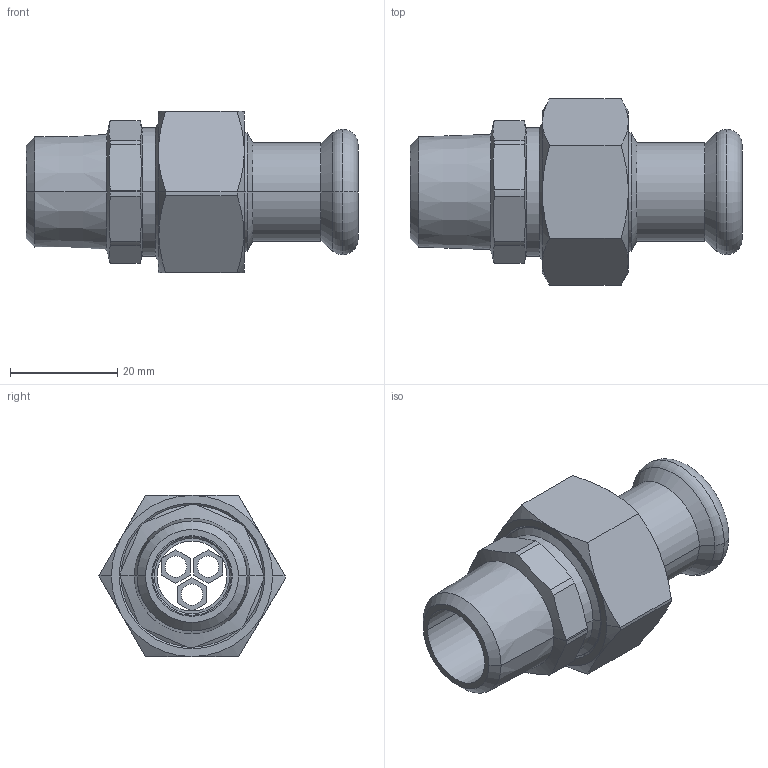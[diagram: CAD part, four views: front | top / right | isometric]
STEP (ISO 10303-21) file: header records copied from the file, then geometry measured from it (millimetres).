
FILE_DESCRIPTION(('OneSpaceDesigner STEP Export'),'2;1');
FILE_NAME('R2735 15xRp1-2.stp','2010-06-10T13:42:50',(''),(''),'OneSpace Designer STEP processor for AP214 (Solid Model)','OneSpace Modeling 15.00A 14-Mar-2007 (C) CoCreate Software GmbH','');
FILE_SCHEMA(('AUTOMOTIVE_DESIGN { 1 0 10303 214 1 1 1 1 }'));
Length unit declared in the file: millimetre
Products named in the file (2): R2735_15xRp1-2
Assembly tree (1 placements, depth 2):
  R2735_15xRp1-2
    R2735_15xRp1-2
Bounding box: 61.8 x 34.64 x 30 mm (x, y, z)
Volume: 16805.8 mm3; surface area: 10725.7 mm2
Topology: 1 solids, 1 shells, 143 faces, 334 edges, 202 vertices
Faces by surface type: plane 49, cylinder 44, cone 42, torus 8
Entity records: 5139 total; most frequent: CARTESIAN_POINT 2233, ORIENTED_EDGE 668, DIRECTION 482, EDGE_CURVE 334, VERTEX_POINT 202, AXIS2_PLACEMENT_3D 163, EDGE_LOOP 160, VECTOR 156
